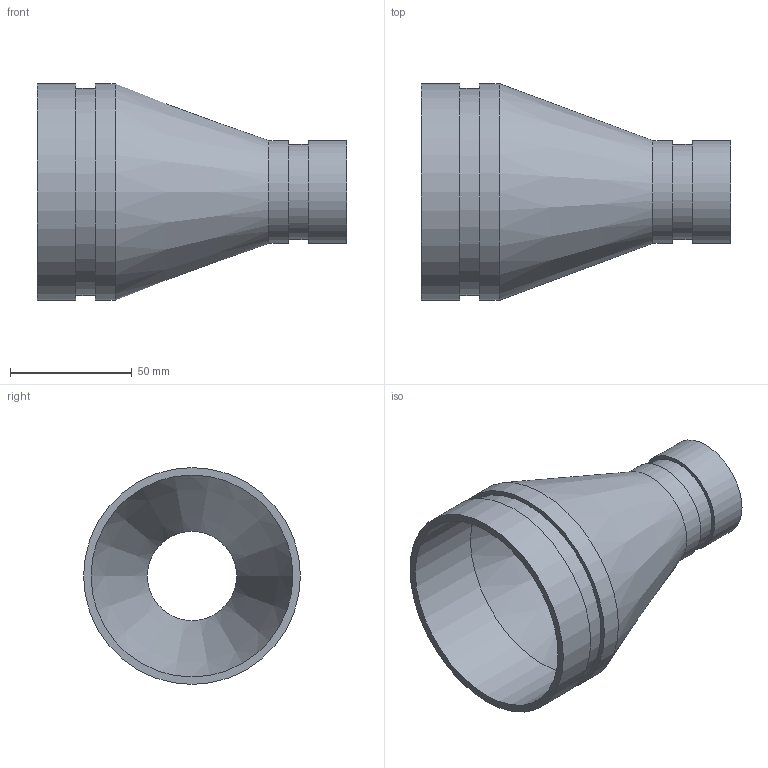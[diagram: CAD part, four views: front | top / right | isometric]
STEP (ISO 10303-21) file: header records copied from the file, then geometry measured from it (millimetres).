
FILE_DESCRIPTION(/* description */ ('VIC REDUCER CONCENTRIC No 450-SS','CAx-IF Rec.Pracs.---Representation and Presentation of Product Manufacturing Information (PMI)---4.0---2014-10-13'),/* implementation_level */ '2;1');
FILE_NAME(/* name */ 'C:\Users\kkamble\AppData\Roaming\Autodesk\ApplicationPlugins\Back Up\Victaulic_SS-OGS_Reducer Concentric_Sched 10S_No 450 SS (OGS)\Victaulic_SS-OGS_Reducer Concentric_Sched 10S_No 450 SS (OGS)_03.0x01.25 (80x32).stp',/* time_stamp */ '2020-09-08T12:32:36+05:00',/* author */ ('CORINNE GRAY'),/* organization */ ('Victaulic'),/* preprocessor_version */ 'ST-DEVELOPER v17.2',/* originating_system */ 'Autodesk Inventor 2019',/* authorisation */ '');
FILE_SCHEMA (('AP242_MANAGED_MODEL_BASED_3D_ENGINEERING_MIM_LF { 1 0 10303 442 1 1 4 }'));
Length unit declared in the file: inch
Products named in the file (1): 450 SS-03.0x01.25
Bounding box: 127 x 88.9 x 88.9 mm (x, y, z)
Volume: 67846.9 mm3; surface area: 54071.2 mm2
Topology: 1 solids, 1 shells, 16 faces, 42 edges, 32 vertices
Faces by surface type: cylinder 8, plane 6, cone 2
Full cylindrical faces by diameter (mm): 36.576 x1, 38.989 x1, 42.164 x2, 82.804 x1, 84.938 x1, 88.9 x2
Entity records: 686 total; most frequent: DIRECTION 134, CARTESIAN_POINT 108, ORIENTED_EDGE 84, AXIS2_PLACEMENT_3D 62, EDGE_CURVE 42, CIRCLE 32, VERTEX_POINT 32, EDGE_LOOP 22
